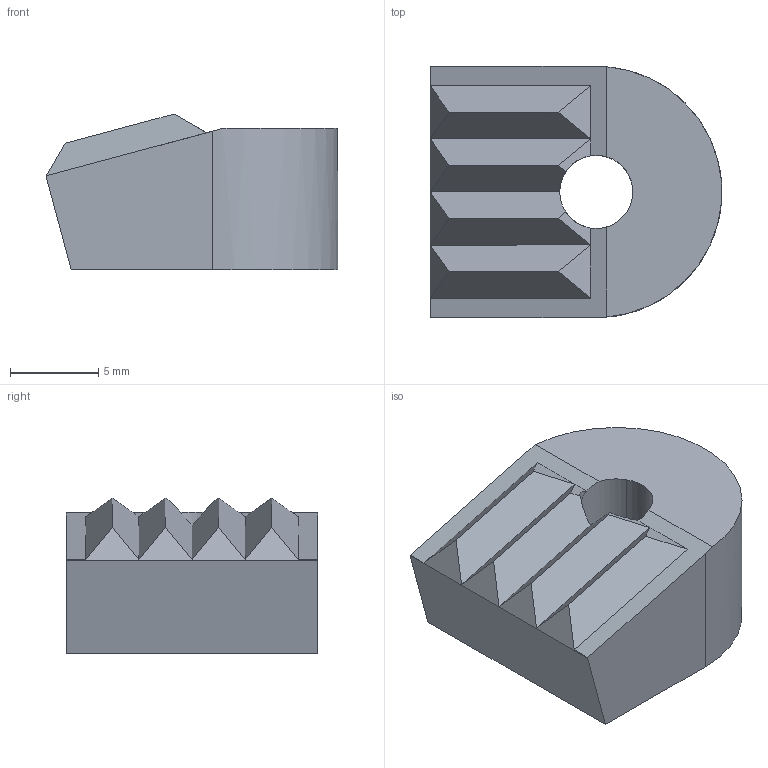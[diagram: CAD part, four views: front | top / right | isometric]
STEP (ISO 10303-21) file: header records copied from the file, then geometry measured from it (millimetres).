
FILE_DESCRIPTION(('CATIA V5 STEP'),'2;1');
FILE_NAME('\\Kjf-102\KJF_TC\Hydraulic_Clamp\Standard\TOGGLE PAD\CP-21\CP-21_-.stp','2020-03-23T23:50:25+00:00',('none'),('none'),'CATIA Version 5 Release 19 SP 6 (IN-10)','CATIA V5 STEP AP214','none');
FILE_SCHEMA(('AUTOMOTIVE_DESIGN { 1 0 10303 214 1 1 1 1 }'));
Length unit declared in the file: millimetre
Products named in the file (1): CP-21_-
Bounding box: 16.49 x 14.2 x 8.81 mm (x, y, z)
Volume: 1402.9 mm3; surface area: 913.2 mm2
Topology: 1 solids, 1 shells, 29 faces, 72 edges, 45 vertices
Faces by surface type: plane 21, cylinder 8
Entity records: 863 total; most frequent: CARTESIAN_POINT 206, ORIENTED_EDGE 144, DIRECTION 102, EDGE_CURVE 72, VECTOR 50, LINE 50, VERTEX_POINT 45, AXIS2_PLACEMENT_3D 32
